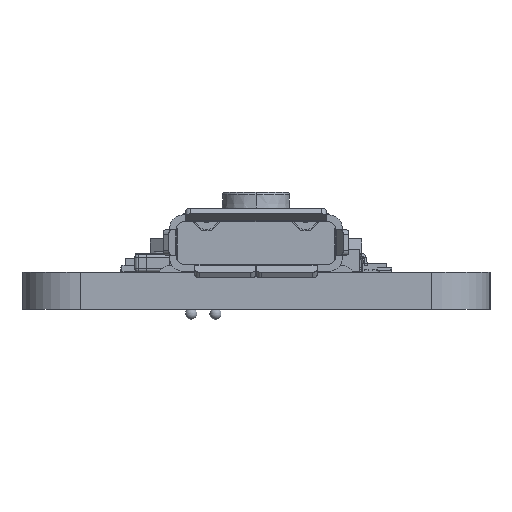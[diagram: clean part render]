
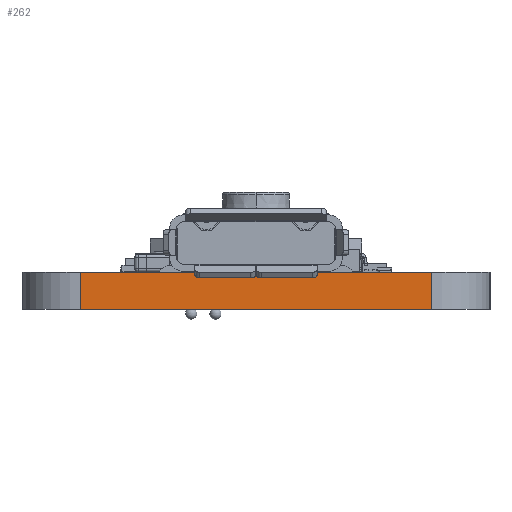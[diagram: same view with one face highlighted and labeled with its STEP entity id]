
A CAD part, left-side view. The second image highlights one B-rep face of the part: STEP entity #262.
In plain terms, the highlighted planar face has unit normal (-1, 0, 0).
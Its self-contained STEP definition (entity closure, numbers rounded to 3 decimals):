
#262 = ADVANCED_FACE('',(#263),#297,.T.);
#263 = FACE_BOUND('',#264,.T.);
#264 = EDGE_LOOP('',(#265,#275,#283,#291));
#265 = ORIENTED_EDGE('',*,*,#266,.T.);
#266 = EDGE_CURVE('',#267,#269,#271,.T.);
#267 = VERTEX_POINT('',#268);
#268 = CARTESIAN_POINT('',(0.,2.54,0.));
#269 = VERTEX_POINT('',#270);
#270 = CARTESIAN_POINT('',(0.,2.54,1.61));
#271 = LINE('',#272,#273);
#272 = CARTESIAN_POINT('',(0.,2.54,0.));
#273 = VECTOR('',#274,1.);
#274 = DIRECTION('',(0.,0.,1.));
#275 = ORIENTED_EDGE('',*,*,#276,.T.);
#276 = EDGE_CURVE('',#269,#277,#279,.T.);
#277 = VERTEX_POINT('',#278);
#278 = CARTESIAN_POINT('',(0.,17.78,
    1.61));
#279 = LINE('',#280,#281);
#280 = CARTESIAN_POINT('',(0.,2.54,1.61));
#281 = VECTOR('',#282,1.);
#282 = DIRECTION('',(0.,1.,0.));
#283 = ORIENTED_EDGE('',*,*,#284,.F.);
#284 = EDGE_CURVE('',#285,#277,#287,.T.);
#285 = VERTEX_POINT('',#286);
#286 = CARTESIAN_POINT('',(0.,17.78,0.)
  );
#287 = LINE('',#288,#289);
#288 = CARTESIAN_POINT('',(0.,17.78,0.)
  );
#289 = VECTOR('',#290,1.);
#290 = DIRECTION('',(0.,0.,1.));
#291 = ORIENTED_EDGE('',*,*,#292,.F.);
#292 = EDGE_CURVE('',#267,#285,#293,.T.);
#293 = LINE('',#294,#295);
#294 = CARTESIAN_POINT('',(0.,2.54,0.));
#295 = VECTOR('',#296,1.);
#296 = DIRECTION('',(0.,1.,0.));
#297 = PLANE('',#298);
#298 = AXIS2_PLACEMENT_3D('',#299,#300,#301);
#299 = CARTESIAN_POINT('',(0.,2.54,0.));
#300 = DIRECTION('',(-1.,0.,0.));
#301 = DIRECTION('',(0.,1.,0.));
